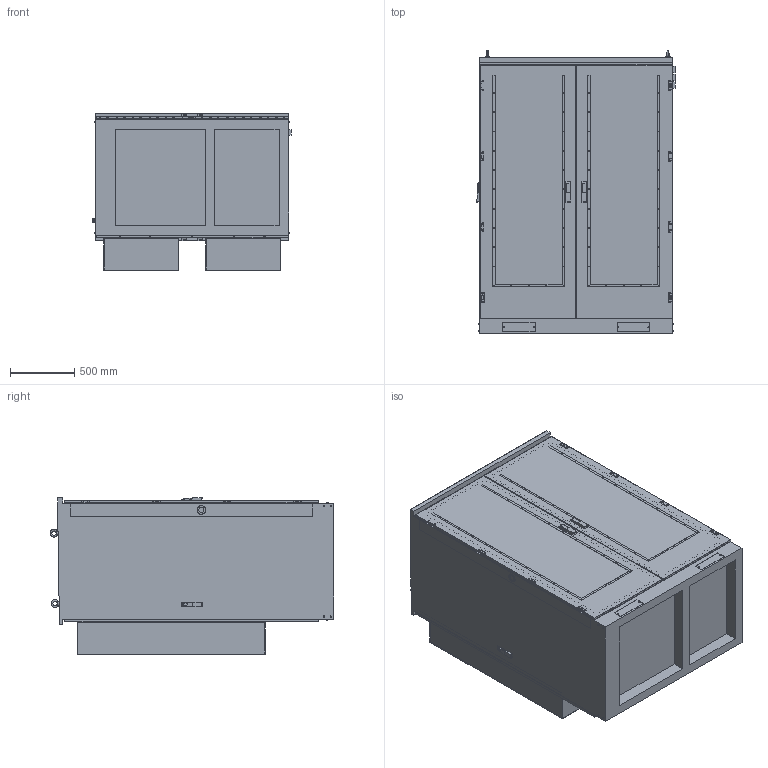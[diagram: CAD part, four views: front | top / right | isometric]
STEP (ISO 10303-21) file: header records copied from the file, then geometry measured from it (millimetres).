
FILE_DESCRIPTION((''),'2;1');
FILE_NAME('1758692862661_ASM','2025-09-24T11:18:06',('SESA617601'),('Schneider-Electric'),'CREO PARAMETRIC BY PTC INC, 2022484','CREO PARAMETRIC BY PTC INC, 2022484','');
FILE_SCHEMA(('AP242_MANAGED_MODEL_BASED_3D_ENGINEERING_MIM_LF { 1 0 10303 442 1 1 4 }'));
Length unit declared in the file: millimetre
Products named in the file (13): EMPTYNODE_1758692862754_ASM; DP-15480-CABIN; AJGLCK03; AJGFAS; AJGFAS16; POWER-CABINET-3D_ASM; DP-8123-63; CABINET-FRONT-DOOR-LEFT-3D_ASM; DP-8123-63-RIGHT; CABINET-FRONT-DOOR-RIGHT-3D_ASM; DP-15480; CABINET-EVD1S480-3D_ASM; 1758692862661_ASM
Assembly tree (35 placements, depth 3):
  1758692862661_ASM
    EMPTYNODE_1758692862754_ASM
    POWER-CABINET-3D_ASM
      DP-15480-CABIN
      AJGLCK03  x5
      AJGFAS  x16
      AJGFAS16  x4
    CABINET-FRONT-DOOR-LEFT-3D_ASM
      DP-8123-63
    CABINET-FRONT-DOOR-RIGHT-3D_ASM
      DP-8123-63-RIGHT
    CABINET-EVD1S480-3D_ASM  x2
      DP-15480
Bounding box: 1540.96 x 2205.91 x 1219.26 mm (x, y, z)
Volume: 397291644.6 mm3; surface area: 38873797.2 mm2
Topology: 48 solids, 64 shells, 2274 faces, 5643 edges, 3599 vertices
Faces by surface type: plane 1510, cylinder 616, bspline 72, torus 48, cone 24, extrusion 4
Entity records: 46432 total; most frequent: CARTESIAN_POINT 8646, DIRECTION 5773, ORIENTED_EDGE 5494, PRESENTATION_STYLE_ASSIGNMENT 2890, STYLED_ITEM 2776, CURVE_STYLE 2751, EDGE_CURVE 2747, AXIS2_PLACEMENT_3D 1979
